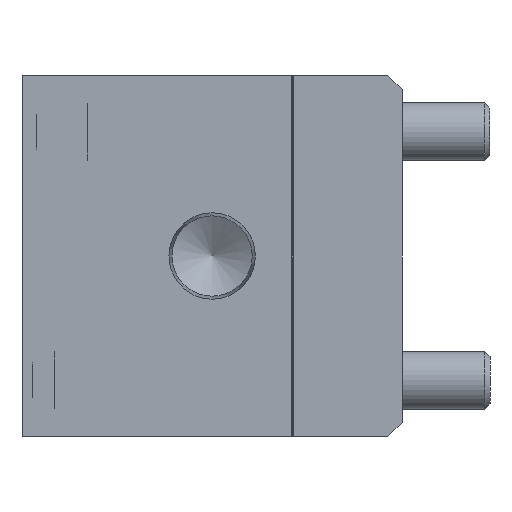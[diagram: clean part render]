
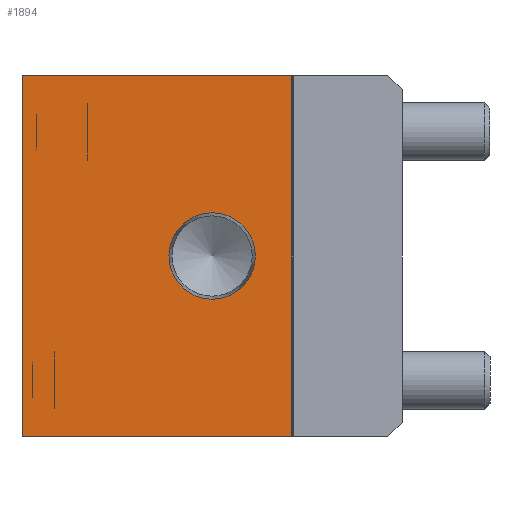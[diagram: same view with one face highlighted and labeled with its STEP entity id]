
A CAD part, left-side view. The second image highlights one B-rep face of the part: STEP entity #1894.
In plain terms, the highlighted planar face has unit normal (-1, 0, 0).
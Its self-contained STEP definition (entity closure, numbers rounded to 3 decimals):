
#1894 = ADVANCED_FACE( '', ( #4302, #4303 ), #4304, .F. );
#4302 = FACE_BOUND( '', #7339, .T. );
#4303 = FACE_OUTER_BOUND( '', #7340, .T. );
#4304 = PLANE( '', #7341 );
#7339 = EDGE_LOOP( '', ( #11979 ) );
#7340 = EDGE_LOOP( '', ( #11980, #11981, #11982, #11983 ) );
#7341 = AXIS2_PLACEMENT_3D( '', #11984, #11985, #11986 );
#11979 = ORIENTED_EDGE( '', *, *, #17386, .T. );
#11980 = ORIENTED_EDGE( '', *, *, #17387, .F. );
#11981 = ORIENTED_EDGE( '', *, *, #17388, .F. );
#11982 = ORIENTED_EDGE( '', *, *, #17389, .T. );
#11983 = ORIENTED_EDGE( '', *, *, #16626, .T. );
#11984 = CARTESIAN_POINT( '', ( 0., 52., 24.75 ) );
#11985 = DIRECTION( '', ( 1., 0., 0. ) );
#11986 = DIRECTION( '', ( 0., 0., -1. ) );
#16626 = EDGE_CURVE( '', #19664, #19668, #19670, .T. );
#17386 = EDGE_CURVE( '', #20812, #20812, #20813, .T. );
#17387 = EDGE_CURVE( '', #19439, #19668, #20814, .T. );
#17388 = EDGE_CURVE( '', #20815, #19439, #20816, .T. );
#17389 = EDGE_CURVE( '', #20815, #19664, #20817, .T. );
#19439 = VERTEX_POINT( '', #23363 );
#19664 = VERTEX_POINT( '', #23668 );
#19668 = VERTEX_POINT( '', #23674 );
#19670 = LINE( '', #23677, #23678 );
#20812 = VERTEX_POINT( '', #25175 );
#20813 = CIRCLE( '', #25176, 5.91 );
#20814 = LINE( '', #25177, #25178 );
#20815 = VERTEX_POINT( '', #25179 );
#20816 = LINE( '', #25180, #25181 );
#20817 = LINE( '', #25182, #25183 );
#23363 = CARTESIAN_POINT( '', ( 0., 15.1, 24.75 ) );
#23668 = CARTESIAN_POINT( '', ( 0., 52., -24.75 ) );
#23674 = CARTESIAN_POINT( '', ( 0., 15.1, -24.75 ) );
#23677 = CARTESIAN_POINT( '', ( 0., 52., -24.75 ) );
#23678 = VECTOR( '', #27594, 1000. );
#25175 = CARTESIAN_POINT( '', ( 0., 26., -5.91 ) );
#25176 = AXIS2_PLACEMENT_3D( '', #28541, #28542, #28543 );
#25177 = CARTESIAN_POINT( '', ( 0., 15.1, 24.75 ) );
#25178 = VECTOR( '', #28544, 1000. );
#25179 = CARTESIAN_POINT( '', ( 0., 52., 24.75 ) );
#25180 = CARTESIAN_POINT( '', ( 0., 52., 24.75 ) );
#25181 = VECTOR( '', #28545, 1000. );
#25182 = CARTESIAN_POINT( '', ( 0., 52., 24.75 ) );
#25183 = VECTOR( '', #28546, 1000. );
#27594 = DIRECTION( '', ( 0., -1., 0. ) );
#28541 = CARTESIAN_POINT( '', ( 0., 26., 0. ) );
#28542 = DIRECTION( '', ( 1., 0., 0. ) );
#28543 = DIRECTION( '', ( 0., 0., -1. ) );
#28544 = DIRECTION( '', ( 0., 0., -1. ) );
#28545 = DIRECTION( '', ( 0., -1., 0. ) );
#28546 = DIRECTION( '', ( 0., 0., -1. ) );
